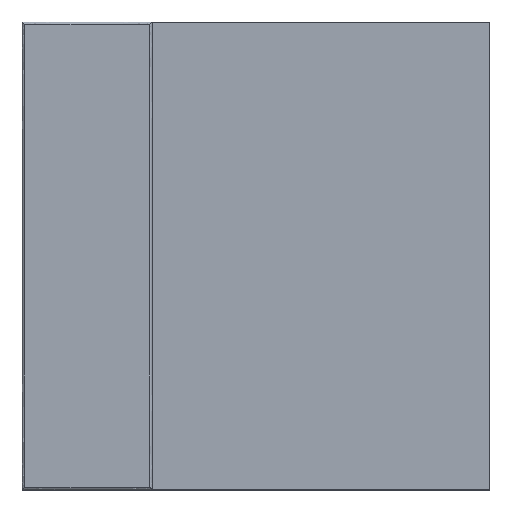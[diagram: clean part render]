
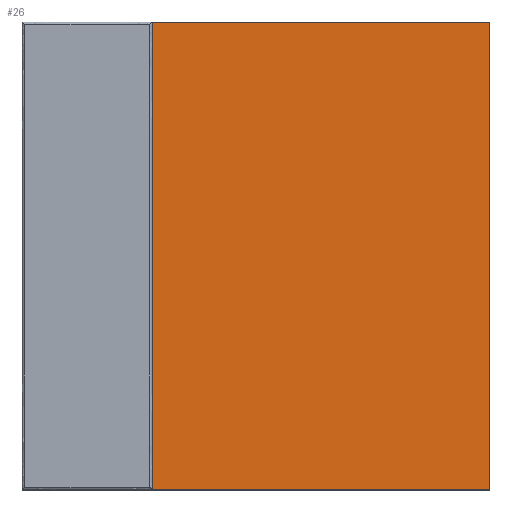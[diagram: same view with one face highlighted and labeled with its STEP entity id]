
A CAD part, top view. The second image highlights one B-rep face of the part: STEP entity #26.
In plain terms, the highlighted planar face has unit normal (0, 0, 1).
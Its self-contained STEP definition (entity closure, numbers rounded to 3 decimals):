
#26=ADVANCED_FACE('',(#42),#222,.T.);
#42=FACE_OUTER_BOUND('',#58,.T.);
#58=EDGE_LOOP('',(#86,#87,#88,#89));
#86=ORIENTED_EDGE('',*,*,#145,.F.);
#87=ORIENTED_EDGE('',*,*,#137,.F.);
#88=ORIENTED_EDGE('',*,*,#139,.F.);
#89=ORIENTED_EDGE('',*,*,#142,.F.);
#137=EDGE_CURVE('',#201,#198,#169,.T.);
#139=EDGE_CURVE('',#203,#201,#171,.T.);
#142=EDGE_CURVE('',#205,#203,#174,.T.);
#145=EDGE_CURVE('',#198,#205,#177,.T.);
#169=B_SPLINE_CURVE_WITH_KNOTS('',1,(#300,#301),.UNSPECIFIED.,.F.,.F.,(2,
2),(-1.,0.),.UNSPECIFIED.);
#171=B_SPLINE_CURVE_WITH_KNOTS('',1,(#304,#305),.UNSPECIFIED.,.F.,.F.,(2,
2),(0.,1.),.UNSPECIFIED.);
#174=B_SPLINE_CURVE_WITH_KNOTS('',1,(#310,#311),.UNSPECIFIED.,.F.,.F.,(2,
2),(0.,1.),.UNSPECIFIED.);
#177=B_SPLINE_CURVE_WITH_KNOTS('',1,(#316,#317),.UNSPECIFIED.,.F.,.F.,(2,
2),(-1.,0.),.UNSPECIFIED.);
#198=VERTEX_POINT('',#286);
#201=VERTEX_POINT('',#289);
#203=VERTEX_POINT('',#291);
#205=VERTEX_POINT('',#293);
#222=PLANE('',#254);
#254=AXIS2_PLACEMENT_3D('',#284,#269,$);
#269=DIRECTION('',(0.,0.,1.));
#284=CARTESIAN_POINT('',(-450.,-450.,50.));
#286=CARTESIAN_POINT('',(450.,-450.,50.));
#289=CARTESIAN_POINT('',(450.,450.,50.));
#291=CARTESIAN_POINT('',(-450.,450.,50.));
#293=CARTESIAN_POINT('',(-450.,-450.,50.));
#300=CARTESIAN_POINT('',(450.,450.,50.));
#301=CARTESIAN_POINT('',(450.,-450.,50.));
#304=CARTESIAN_POINT('',(-450.,450.,50.));
#305=CARTESIAN_POINT('',(450.,450.,50.));
#310=CARTESIAN_POINT('',(-450.,-450.,50.));
#311=CARTESIAN_POINT('',(-450.,450.,50.));
#316=CARTESIAN_POINT('',(450.,-450.,50.));
#317=CARTESIAN_POINT('',(-450.,-450.,50.));
